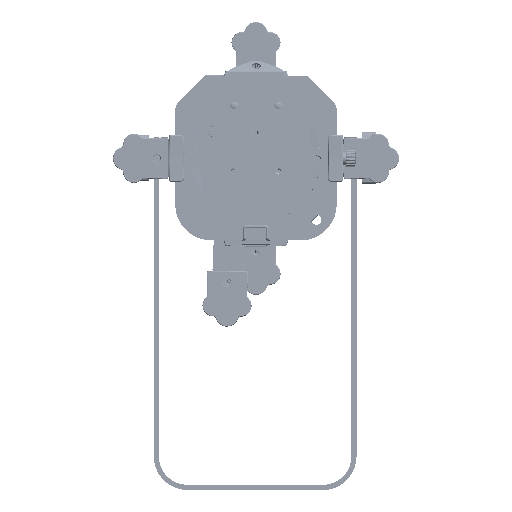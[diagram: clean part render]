
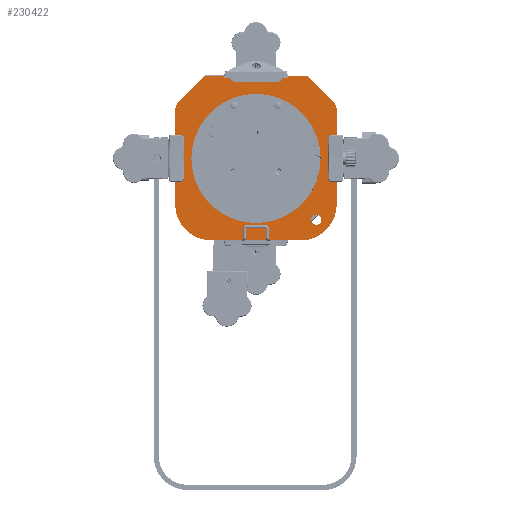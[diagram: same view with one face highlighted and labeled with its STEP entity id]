
A CAD part, front view. The second image highlights one B-rep face of the part: STEP entity #230422.
In plain terms, the highlighted planar face has unit normal (0, -1, 0).
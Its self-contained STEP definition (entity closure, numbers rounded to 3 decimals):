
#229405=CARTESIAN_POINT('',(-40.227,-0.695,63.46));
#229558=DIRECTION('',(1.,0.,0.));
#229559=VECTOR('',#229558,69.395);
#229560=CARTESIAN_POINT('',(-34.698,-0.695,-63.46));
#229561=LINE('',#229560,#229559);
#229593=DIRECTION('',(0.,0.,1.));
#229594=VECTOR('',#229593,72.702);
#229595=CARTESIAN_POINT('',(62.5,-0.695,-35.658));
#229596=LINE('',#229595,#229594);
#229628=CARTESIAN_POINT('',(-52.5,-0.695,37.044));
#229629=DIRECTION('',(0.,1.,0.));
#229630=DIRECTION('',(-1.,0.,0.));
#229631=AXIS2_PLACEMENT_3D('',#229628,#229629,#229630);
#229636=DIRECTION('',(0.707,0.,0.707));
#229637=VECTOR('',#229636,27.357);
#229638=CARTESIAN_POINT('',(-59.571,-0.695,
44.115));
#229639=LINE('',#229638,#229637);
#229643=DIRECTION('',(1.,0.,0.));
#229644=VECTOR('',#229643,9.);
#229645=CARTESIAN_POINT('',(-24.6,-0.695,62.155));
#229646=LINE('',#229645,#229644);
#229650=DIRECTION('',(0.,0.,1.));
#229651=VECTOR('',#229650,1.305);
#229652=CARTESIAN_POINT('',(-15.6,-0.695,62.155));
#229653=LINE('',#229652,#229651);
#229657=DIRECTION('',(0.,0.,1.));
#229658=VECTOR('',#229657,1.305);
#229659=CARTESIAN_POINT('',(24.6,-0.695,62.155));
#229660=LINE('',#229659,#229658);
#229664=DIRECTION('',(0.707,0.,-0.707));
#229665=VECTOR('',#229664,27.357);
#229666=CARTESIAN_POINT('',(40.227,-0.695,63.46));
#229667=LINE('',#229666,#229665);
#229671=CARTESIAN_POINT('',(52.5,-0.695,37.044));
#229672=DIRECTION('',(0.,1.,0.));
#229673=DIRECTION('',(0.707,0.,0.707));
#229674=AXIS2_PLACEMENT_3D('',#229671,#229672,#229673);
#229679=CARTESIAN_POINT('',(34.698,-0.695,
-35.658));
#229680=DIRECTION('',(0.,1.,0.));
#229681=DIRECTION('',(1.,0.,0.));
#229682=AXIS2_PLACEMENT_3D('',#229679,#229680,#229681);
#229687=CARTESIAN_POINT('',(-34.698,-0.695,
-35.658));
#229688=DIRECTION('',(0.,1.,0.));
#229689=DIRECTION('',(0.,0.,-1.));
#229690=AXIS2_PLACEMENT_3D('',#229687,#229688,#229689);
#229695=CARTESIAN_POINT('',(46.7,-0.695,-47.3));
#229696=DIRECTION('',(0.,-1.,0.));
#229697=DIRECTION('',(-1.,0.,0.));
#229698=AXIS2_PLACEMENT_3D('',#229695,#229696,#229697);
#229703=CARTESIAN_POINT('',(46.7,-0.695,-47.3));
#229704=DIRECTION('',(0.,-1.,0.));
#229705=DIRECTION('',(1.,0.,0.));
#229706=AXIS2_PLACEMENT_3D('',#229703,#229704,#229705);
#229711=CARTESIAN_POINT('',(0.,-0.695,0.));
#229712=DIRECTION('',(0.,-1.,0.));
#229713=DIRECTION('',(-1.,0.,0.));
#229714=AXIS2_PLACEMENT_3D('',#229711,#229712,#229713);
#229719=CARTESIAN_POINT('',(0.,-0.695,0.));
#229720=DIRECTION('',(0.,-1.,0.));
#229721=DIRECTION('',(1.,0.,0.));
#229722=AXIS2_PLACEMENT_3D('',#229719,#229720,#229721);
#229734=DIRECTION('',(-1.,0.,0.));
#229735=VECTOR('',#229734,15.627);
#229736=CARTESIAN_POINT('',(-24.6,-0.695,63.46));
#229737=LINE('',#229736,#229735);
#229777=DIRECTION('',(0.,0.,1.));
#229778=VECTOR('',#229777,1.305);
#229779=CARTESIAN_POINT('',(-24.6,-0.695,62.155));
#229780=LINE('',#229779,#229778);
#229864=DIRECTION('',(-1.,0.,0.));
#229865=VECTOR('',#229864,31.2);
#229866=CARTESIAN_POINT('',(15.6,-0.695,63.46));
#229867=LINE('',#229866,#229865);
#229907=DIRECTION('',(0.,0.,1.));
#229908=VECTOR('',#229907,1.305);
#229909=CARTESIAN_POINT('',(15.6,-0.695,62.155));
#229910=LINE('',#229909,#229908);
#229929=DIRECTION('',(-1.,0.,0.));
#229930=VECTOR('',#229929,9.);
#229931=CARTESIAN_POINT('',(24.6,-0.695,62.155));
#229932=LINE('',#229931,#229930);
#229987=DIRECTION('',(-1.,0.,0.));
#229988=VECTOR('',#229987,15.627);
#229989=CARTESIAN_POINT('',(40.227,-0.695,63.46));
#229990=LINE('',#229989,#229988);
#230014=DIRECTION('',(0.,0.,-1.));
#230015=VECTOR('',#230014,72.702);
#230016=CARTESIAN_POINT('',(-62.5,-0.695,37.044));
#230017=LINE('',#230016,#230015);
#230065=CARTESIAN_POINT('',(-59.571,-0.695,
44.115));
#230067=VERTEX_POINT('',#230065);
#230068=CARTESIAN_POINT('',(-62.5,-0.695,37.044));
#230069=VERTEX_POINT('',#230068);
#230072=VERTEX_POINT('',#229405);
#230109=CARTESIAN_POINT('',(50.,-0.695,0.));
#230110=VERTEX_POINT('',#230109);
#230111=CARTESIAN_POINT('',(-50.,-0.695,0.));
#230112=VERTEX_POINT('',#230111);
#230113=CARTESIAN_POINT('',(-24.6,-0.695,63.46));
#230114=VERTEX_POINT('',#230113);
#230115=CARTESIAN_POINT('',(-24.6,-0.695,62.155));
#230116=VERTEX_POINT('',#230115);
#230117=CARTESIAN_POINT('',(-15.6,-0.695,62.155));
#230118=VERTEX_POINT('',#230117);
#230119=CARTESIAN_POINT('',(-15.6,-0.695,63.46));
#230120=VERTEX_POINT('',#230119);
#230121=CARTESIAN_POINT('',(15.6,-0.695,63.46));
#230122=VERTEX_POINT('',#230121);
#230123=CARTESIAN_POINT('',(15.6,-0.695,62.155));
#230124=VERTEX_POINT('',#230123);
#230125=CARTESIAN_POINT('',(24.6,-0.695,62.155));
#230126=VERTEX_POINT('',#230125);
#230127=CARTESIAN_POINT('',(24.6,-0.695,63.46));
#230128=VERTEX_POINT('',#230127);
#230129=CARTESIAN_POINT('',(40.227,-0.695,63.46));
#230130=VERTEX_POINT('',#230129);
#230131=CARTESIAN_POINT('',(59.571,-0.695,
44.115));
#230132=VERTEX_POINT('',#230131);
#230133=CARTESIAN_POINT('',(62.5,-0.695,37.044));
#230134=VERTEX_POINT('',#230133);
#230135=CARTESIAN_POINT('',(62.5,-0.695,-35.658));
#230136=VERTEX_POINT('',#230135);
#230137=CARTESIAN_POINT('',(34.698,-0.695,-63.46));
#230138=VERTEX_POINT('',#230137);
#230139=CARTESIAN_POINT('',(-34.698,-0.695,-63.46));
#230140=VERTEX_POINT('',#230139);
#230141=CARTESIAN_POINT('',(-62.5,-0.695,-35.658));
#230142=VERTEX_POINT('',#230141);
#230143=CARTESIAN_POINT('',(42.7,-0.695,-47.3));
#230144=CARTESIAN_POINT('',(50.7,-0.695,-47.3));
#230145=VERTEX_POINT('',#230143);
#230146=VERTEX_POINT('',#230144);
#230374=CARTESIAN_POINT('',(62.5,-0.695,63.46));
#230375=DIRECTION('',(0.,1.,0.));
#230376=DIRECTION('',(1.,0.,0.));
#230377=AXIS2_PLACEMENT_3D('',#230374,#230375,#230376);
#230378=PLANE('',#230377);
#230379=ORIENTED_EDGE('',*,*,#230202,.T.);
#230380=ORIENTED_EDGE('',*,*,#230222,.T.);
#230382=ORIENTED_EDGE('',*,*,#230381,.F.);
#230384=ORIENTED_EDGE('',*,*,#230383,.F.);
#230386=ORIENTED_EDGE('',*,*,#230385,.T.);
#230388=ORIENTED_EDGE('',*,*,#230387,.T.);
#230390=ORIENTED_EDGE('',*,*,#230389,.F.);
#230392=ORIENTED_EDGE('',*,*,#230391,.F.);
#230394=ORIENTED_EDGE('',*,*,#230393,.F.);
#230396=ORIENTED_EDGE('',*,*,#230395,.T.);
#230398=ORIENTED_EDGE('',*,*,#230397,.F.);
#230400=ORIENTED_EDGE('',*,*,#230399,.T.);
#230401=ORIENTED_EDGE('',*,*,#230354,.T.);
#230402=ORIENTED_EDGE('',*,*,#230341,.F.);
#230403=ORIENTED_EDGE('',*,*,#230326,.T.);
#230404=ORIENTED_EDGE('',*,*,#230308,.F.);
#230405=ORIENTED_EDGE('',*,*,#230293,.T.);
#230407=ORIENTED_EDGE('',*,*,#230406,.F.);
#230408=EDGE_LOOP('',(#230379,#230380,#230382,#230384,#230386,#230388,#230390,
#230392,#230394,#230396,#230398,#230400,#230401,#230402,#230403,#230404,#230405,
#230407));
#230409=FACE_OUTER_BOUND('',#230408,.F.);
#230411=ORIENTED_EDGE('',*,*,#230410,.T.);
#230413=ORIENTED_EDGE('',*,*,#230412,.T.);
#230414=EDGE_LOOP('',(#230411,#230413));
#230415=FACE_BOUND('',#230414,.F.);
#230417=ORIENTED_EDGE('',*,*,#230416,.T.);
#230419=ORIENTED_EDGE('',*,*,#230418,.T.);
#230420=EDGE_LOOP('',(#230417,#230419));
#230421=FACE_BOUND('',#230420,.F.);
#229632=CIRCLE('',#229631,10.);
#229675=CIRCLE('',#229674,10.);
#229683=CIRCLE('',#229682,27.802);
#229691=CIRCLE('',#229690,27.802);
#229699=CIRCLE('',#229698,4.);
#229707=CIRCLE('',#229706,4.);
#229715=CIRCLE('',#229714,50.);
#229723=CIRCLE('',#229722,50.);
#230202=EDGE_CURVE('',#230069,#230067,#229632,.T.);
#230222=EDGE_CURVE('',#230067,#230072,#229639,.T.);
#230293=EDGE_CURVE('',#230140,#230142,#229691,.T.);
#230308=EDGE_CURVE('',#230140,#230138,#229561,.T.);
#230326=EDGE_CURVE('',#230136,#230138,#229683,.T.);
#230341=EDGE_CURVE('',#230136,#230134,#229596,.T.);
#230354=EDGE_CURVE('',#230132,#230134,#229675,.T.);
#230381=EDGE_CURVE('',#230114,#230072,#229737,.T.);
#230383=EDGE_CURVE('',#230116,#230114,#229780,.T.);
#230385=EDGE_CURVE('',#230116,#230118,#229646,.T.);
#230387=EDGE_CURVE('',#230118,#230120,#229653,.T.);
#230389=EDGE_CURVE('',#230122,#230120,#229867,.T.);
#230391=EDGE_CURVE('',#230124,#230122,#229910,.T.);
#230393=EDGE_CURVE('',#230126,#230124,#229932,.T.);
#230395=EDGE_CURVE('',#230126,#230128,#229660,.T.);
#230397=EDGE_CURVE('',#230130,#230128,#229990,.T.);
#230399=EDGE_CURVE('',#230130,#230132,#229667,.T.);
#230406=EDGE_CURVE('',#230069,#230142,#230017,.T.);
#230410=EDGE_CURVE('',#230145,#230146,#229699,.T.);
#230412=EDGE_CURVE('',#230146,#230145,#229707,.T.);
#230416=EDGE_CURVE('',#230112,#230110,#229715,.T.);
#230418=EDGE_CURVE('',#230110,#230112,#229723,.T.);
#230422=ADVANCED_FACE('',(#230409,#230415,#230421),#230378,.F.);
